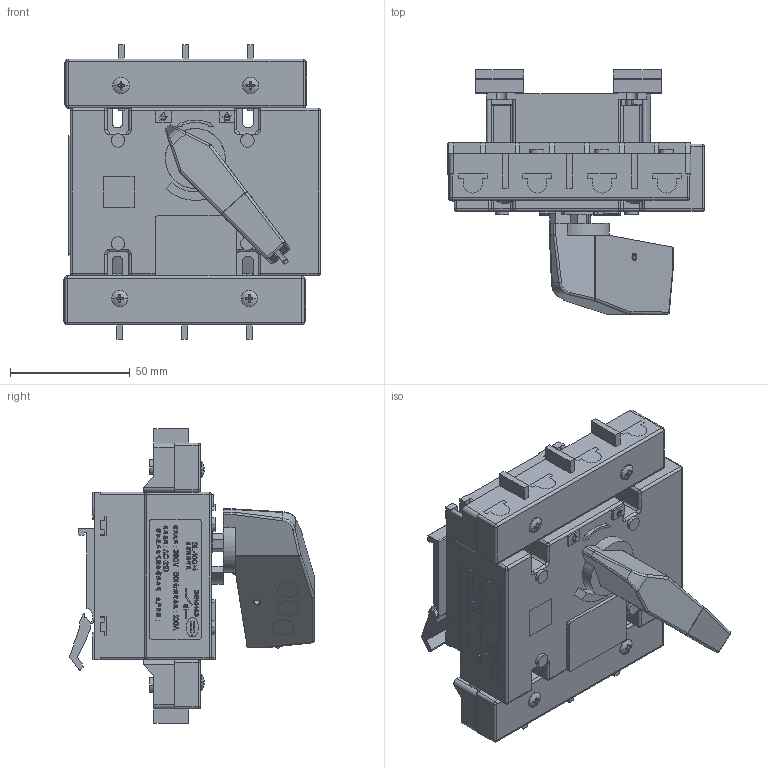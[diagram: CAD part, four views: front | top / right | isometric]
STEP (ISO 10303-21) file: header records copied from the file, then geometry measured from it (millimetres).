
FILE_DESCRIPTION((''),'2;1');
FILE_NAME('2TZD_504_1002_SW0001','2022-02-24T',('panxiangxiang'),(''),'PRO/ENGINEER BY PARAMETRIC TECHNOLOGY CORPORATION, 2017170','PRO/ENGINEER BY PARAMETRIC TECHNOLOGY CORPORATION, 2017170','');
FILE_SCHEMA(('CONFIG_CONTROL_DESIGN'));
Products named in the file (1): 2TZD_504_1002_SW0001
Bounding box: 107.25 x 102.21 x 123 mm (x, y, z)
Volume: 197489 mm3; surface area: 138749 mm2
Topology: 1 solids, 1 shells, 6268 faces, 17656 edges, 11606 vertices
Faces by surface type: plane 5575, cylinder 517, sphere 83, cone 41, torus 26, bspline 26
Entity records: 201058 total; most frequent: CARTESIAN_POINT 38323, ORIENTED_EDGE 35280, DIRECTION 31222, EDGE_CURVE 17640, VECTOR 15976, LINE 15976, VERTEX_POINT 11606, AXIS2_PLACEMENT_3D 7623
